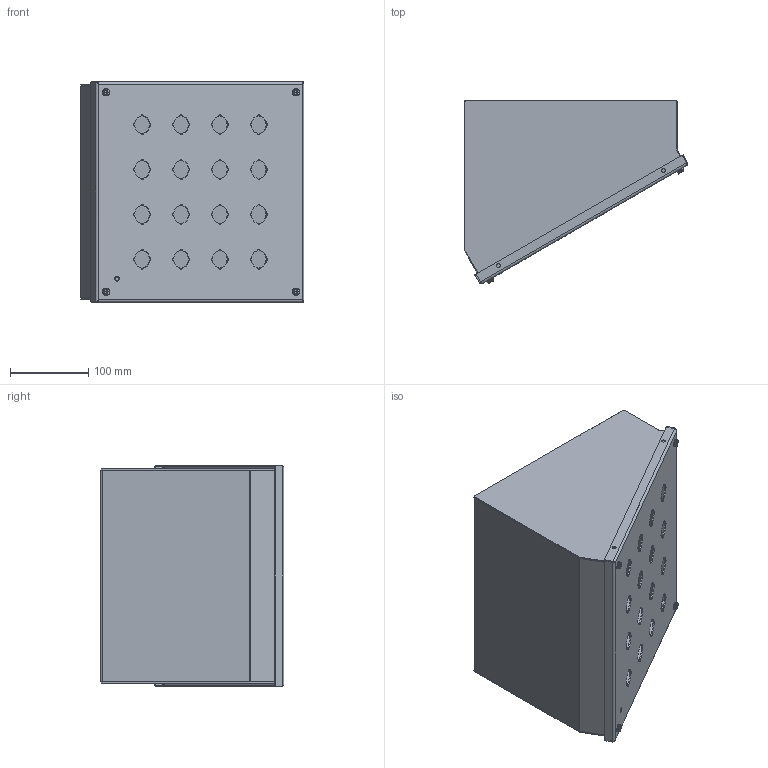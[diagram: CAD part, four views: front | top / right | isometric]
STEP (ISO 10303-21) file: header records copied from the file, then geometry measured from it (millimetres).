
FILE_DESCRIPTION((''),'2;1');
FILE_NAME('MODEL-296_ASM','2021-06-08T08:17:22',('mikek'),('SAGINAW CONTROL & ENGINEERING'),'CREO PARAMETRIC BY PTC INC, 2017260','CREO PARAMETRIC BY PTC INC, 2017260','');
FILE_SCHEMA(('AUTOMOTIVE_DESIGN { 1 0 10303 214 1 1 1 1 }'));
Length unit declared in the file: inch
Products named in the file (14): MODEL-296-BDY; MODEL-296-DR; 100063; 100983; 102534; MODEL-296-GSKT; 100009; CH-ELJ_SUBPANEL; 102479; CH-ELJ_SUBPANEL-SUBASSEMBLY_ASM; 120706; MODEL-296-R-SD; MODEL-296-L-SD; MODEL-296_ASM
Assembly tree (26 placements, depth 3):
  MODEL-296_ASM
    MODEL-296-BDY
    MODEL-296-DR
    100063
    100983  x4
    102534  x4
    MODEL-296-GSKT
    100009  x5
    CH-ELJ_SUBPANEL-SUBASSEMBLY_ASM
      CH-ELJ_SUBPANEL
      102479  x4
    120706
    MODEL-296-R-SD
    MODEL-296-L-SD
Bounding box: 285.07 x 233.96 x 280.99 mm (x, y, z)
Volume: 648522.7 mm3; surface area: 833890.1 mm2
Topology: 28 solids, 28 shells, 1269 faces, 3262 edges, 1928 vertices
Faces by surface type: cylinder 564, plane 389, bspline 168, torus 96, cone 44, sphere 8
Entity records: 34876 total; most frequent: CARTESIAN_POINT 5693, DIRECTION 4397, ORIENTED_EDGE 3964, EDGE_CURVE 1982, PRESENTATION_STYLE_ASSIGNMENT 1897, STYLED_ITEM 1897, CURVE_STYLE 1818, AXIS2_PLACEMENT_3D 1753
